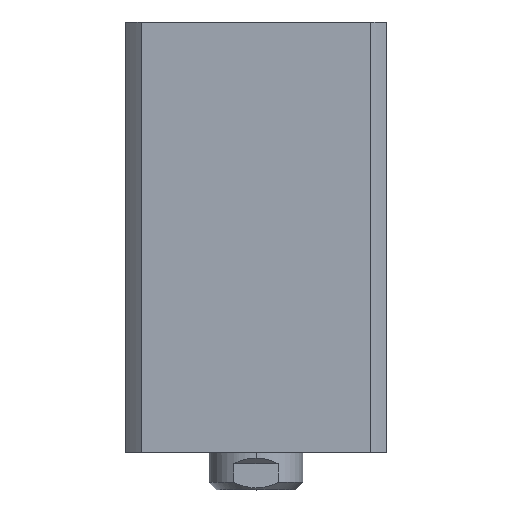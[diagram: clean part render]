
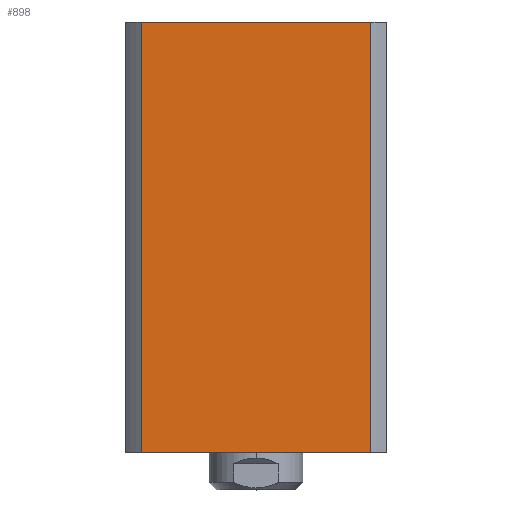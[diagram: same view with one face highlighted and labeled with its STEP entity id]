
A CAD part, top view. The second image highlights one B-rep face of the part: STEP entity #898.
In plain terms, the highlighted planar face has unit normal (0, 0, 1) as drawn and (1, 0, 0) by its records, which use the part's own axes.
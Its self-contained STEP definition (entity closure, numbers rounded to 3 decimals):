
#243 = ORIENTED_EDGE ( 'NONE', *, *, #2037, .F. ) ;
#898 = ADVANCED_FACE ( 'NONE', ( #5307 ), #4138, .F. ) ;
#1175 = LINE ( 'NONE', #7458, #3044 ) ;
#1697 = VECTOR ( 'NONE', #7962, 1000. ) ;
#2037 = EDGE_CURVE ( 'NONE', #5642, #2628, #1175, .T. ) ;
#2056 = EDGE_CURVE ( 'NONE', #4235, #2628, #2771, .T. ) ;
#2137 = AXIS2_PLACEMENT_3D ( 'NONE', #9314, #3980, #3948 ) ;
#2307 = CARTESIAN_POINT ( 'NONE',  ( 35., -30.615, 0. ) ) ;
#2438 = DIRECTION ( 'NONE',  ( 0., 0., -1. ) ) ;
#2588 = ORIENTED_EDGE ( 'NONE', *, *, #5786, .F. ) ;
#2628 = VERTEX_POINT ( 'NONE', #9674 ) ;
#2771 = LINE ( 'NONE', #9324, #6905 ) ;
#2823 = ORIENTED_EDGE ( 'NONE', *, *, #9224, .F. ) ;
#3044 = VECTOR ( 'NONE', #2438, 1000. ) ;
#3851 = LINE ( 'NONE', #5339, #5644 ) ;
#3948 = DIRECTION ( 'NONE',  ( 0., 0., 1. ) ) ;
#3980 = DIRECTION ( 'NONE',  ( -1., 0., 0. ) ) ;
#4138 = PLANE ( 'NONE',  #2137 ) ;
#4235 = VERTEX_POINT ( 'NONE', #2307 ) ;
#4718 = DIRECTION ( 'NONE',  ( 0., 1., 0. ) ) ;
#5307 = FACE_OUTER_BOUND ( 'NONE', #10042, .T. ) ;
#5339 = CARTESIAN_POINT ( 'NONE',  ( 35., 35., 115. ) ) ;
#5571 = DIRECTION ( 'NONE',  ( 0., 1., 0. ) ) ;
#5642 = VERTEX_POINT ( 'NONE', #7490 ) ;
#5644 = VECTOR ( 'NONE', #5571, 1000. ) ;
#5786 = EDGE_CURVE ( 'NONE', #6890, #5642, #3851, .T. ) ;
#6890 = VERTEX_POINT ( 'NONE', #7049 ) ;
#6905 = VECTOR ( 'NONE', #4718, 1000. ) ;
#7049 = CARTESIAN_POINT ( 'NONE',  ( 35., -30.615, 115. ) ) ;
#7458 = CARTESIAN_POINT ( 'NONE',  ( 35., 30.615, 300. ) ) ;
#7490 = CARTESIAN_POINT ( 'NONE',  ( 35., 30.615, 115. ) ) ;
#7962 = DIRECTION ( 'NONE',  ( 0., 0., 1. ) ) ;
#8774 = CARTESIAN_POINT ( 'NONE',  ( 35., -30.615, 300. ) ) ;
#9224 = EDGE_CURVE ( 'NONE', #4235, #6890, #9680, .T. ) ;
#9255 = ORIENTED_EDGE ( 'NONE', *, *, #2056, .T. ) ;
#9314 = CARTESIAN_POINT ( 'NONE',  ( 35., 35., 115. ) ) ;
#9324 = CARTESIAN_POINT ( 'NONE',  ( 35., 35., 0. ) ) ;
#9674 = CARTESIAN_POINT ( 'NONE',  ( 35., 30.615, 0. ) ) ;
#9680 = LINE ( 'NONE', #8774, #1697 ) ;
#10042 = EDGE_LOOP ( 'NONE', ( #243, #2588, #2823, #9255 ) ) ;
